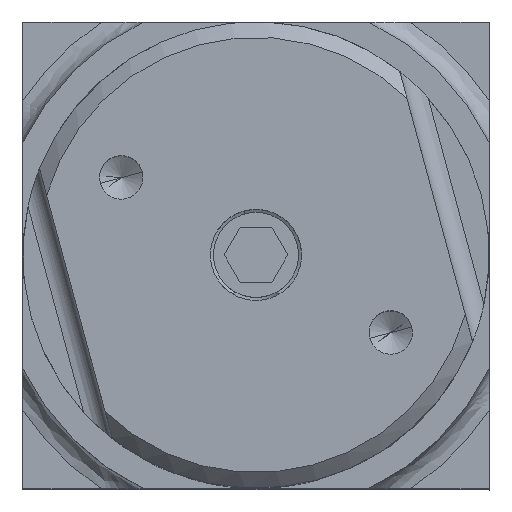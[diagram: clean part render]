
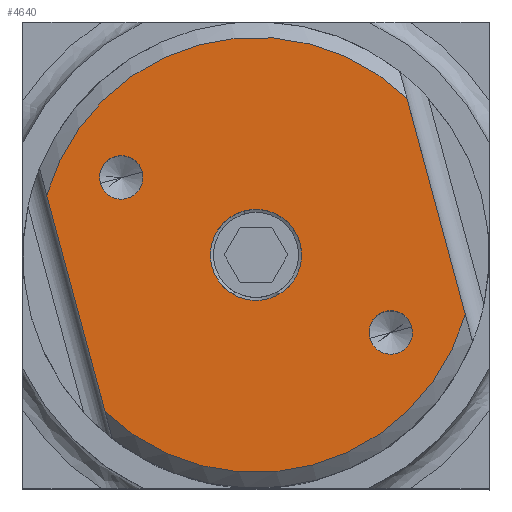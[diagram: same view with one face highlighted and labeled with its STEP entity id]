
A CAD part, top view. The second image highlights one B-rep face of the part: STEP entity #4640.
In plain terms, the highlighted planar face has unit normal (0, 0, 1).
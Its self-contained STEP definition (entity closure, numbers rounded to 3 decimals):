
#494 = CARTESIAN_POINT ( 'NONE',  ( -24.374, 2.932, 183.5 ) ) ;
#1369 = PLANE ( 'NONE',  #24816 ) ;
#2161 = CIRCLE ( 'NONE', #4264, 2.1 ) ;
#2211 = VERTEX_POINT ( 'NONE', #11824 ) ;
#2353 = ORIENTED_EDGE ( 'NONE', *, *, #20970, .F. ) ;
#2733 = CARTESIAN_POINT ( 'NONE',  ( -4.179, -2.824, 183.5 ) ) ;
#3393 = VERTEX_POINT ( 'NONE', #5075 ) ;
#3458 = CARTESIAN_POINT ( 'NONE',  ( 10.384, 12.306, 183.5 ) ) ;
#3537 = CARTESIAN_POINT ( 'NONE',  ( -19.209, 4.108, 183.5 ) ) ;
#3888 = CIRCLE ( 'NONE', #15987, 4.4 ) ;
#4264 = AXIS2_PLACEMENT_3D ( 'NONE', #9071, #24767, #11341 ) ;
#4492 = EDGE_CURVE ( 'NONE', #2211, #20795, #18507, .T. ) ;
#4640 = ADVANCED_FACE ( 'NONE', ( #4818, #16727, #28662, #27954 ), #1369, .F. ) ;
#4818 = FACE_BOUND ( 'NONE', #21282, .T. ) ;
#4976 = DIRECTION ( 'NONE',  ( 0.966, 0.26, 0. ) ) ;
#5075 = CARTESIAN_POINT ( 'NONE',  ( -15.153, 5.201, 183.5 ) ) ;
#5133 = CIRCLE ( 'NONE', #10290, 21. ) ;
#5341 = VERTEX_POINT ( 'NONE', #19574 ) ;
#5560 = DIRECTION ( 'NONE',  ( 0., 0., 1. ) ) ;
#5627 = ORIENTED_EDGE ( 'NONE', *, *, #5790, .F. ) ;
#5748 = CARTESIAN_POINT ( 'NONE',  ( 8.824, -10.303, 183.5 ) ) ;
#5790 = EDGE_CURVE ( 'NONE', #8892, #5341, #3888, .T. ) ;
#6096 = CARTESIAN_POINT ( 'NONE',  ( 13.201, 1.862, 183.5 ) ) ;
#6547 = VECTOR ( 'NONE', #21809, 1000. ) ;
#7029 = EDGE_CURVE ( 'NONE', #16214, #25987, #28991, .T. ) ;
#7250 = AXIS2_PLACEMENT_3D ( 'NONE', #5748, #21461, #8022 ) ;
#8022 = DIRECTION ( 'NONE',  ( 0.966, 0.26, 0. ) ) ;
#8116 = CARTESIAN_POINT ( 'NONE',  ( -4.179, -2.824, 183.5 ) ) ;
#8437 = CARTESIAN_POINT ( 'NONE',  ( -17.181, 4.655, 183.5 ) ) ;
#8892 = VERTEX_POINT ( 'NONE', #27977 ) ;
#9071 = CARTESIAN_POINT ( 'NONE',  ( -17.181, 4.655, 183.5 ) ) ;
#10257 = CIRCLE ( 'NONE', #14172, 4.4 ) ;
#10290 = AXIS2_PLACEMENT_3D ( 'NONE', #8116, #23798, #10384 ) ;
#10381 = CARTESIAN_POINT ( 'NONE',  ( 18.734, -18.657, 183.5 ) ) ;
#10384 = DIRECTION ( 'NONE',  ( -0.966, -0.26, 0. ) ) ;
#10705 = DIRECTION ( 'NONE',  ( 0.966, 0.26, 0. ) ) ;
#11027 = EDGE_LOOP ( 'NONE', ( #18384, #26684 ) ) ;
#11272 = VERTEX_POINT ( 'NONE', #15246 ) ;
#11341 = DIRECTION ( 'NONE',  ( 0.966, 0.26, 0. ) ) ;
#11652 = ORIENTED_EDGE ( 'NONE', *, *, #4492, .T. ) ;
#11820 = CIRCLE ( 'NONE', #17745, 21. ) ;
#11824 = CARTESIAN_POINT ( 'NONE',  ( 16.017, -8.581, 183.5 ) ) ;
#12098 = CARTESIAN_POINT ( 'NONE',  ( -4.179, -2.824, 183.5 ) ) ;
#12430 = ORIENTED_EDGE ( 'NONE', *, *, #16565, .F. ) ;
#12656 = DIRECTION ( 'NONE',  ( -0.966, -0.26, 0. ) ) ;
#13199 = DIRECTION ( 'NONE',  ( 0., 0., 1. ) ) ;
#13278 = EDGE_CURVE ( 'NONE', #3393, #26085, #26608, .T. ) ;
#14172 = AXIS2_PLACEMENT_3D ( 'NONE', #26580, #13199, #28829 ) ;
#14349 = DIRECTION ( 'NONE',  ( -0.966, -0.26, 0. ) ) ;
#15246 = CARTESIAN_POINT ( 'NONE',  ( -18.741, -17.955, 183.5 ) ) ;
#15987 = AXIS2_PLACEMENT_3D ( 'NONE', #2733, #18404, #4976 ) ;
#16214 = VERTEX_POINT ( 'NONE', #20003 ) ;
#16565 = EDGE_CURVE ( 'NONE', #25987, #16214, #22330, .T. ) ;
#16660 = EDGE_CURVE ( 'NONE', #11272, #2211, #5133, .T. ) ;
#16727 = FACE_BOUND ( 'NONE', #19756, .T. ) ;
#17218 = LINE ( 'NONE', #18305, #20370 ) ;
#17510 = AXIS2_PLACEMENT_3D ( 'NONE', #19012, #5560, #21266 ) ;
#17745 = AXIS2_PLACEMENT_3D ( 'NONE', #12098, #27764, #14349 ) ;
#17753 = VERTEX_POINT ( 'NONE', #494 ) ;
#18305 = CARTESIAN_POINT ( 'NONE',  ( -21.558, -7.511, 183.5 ) ) ;
#18384 = ORIENTED_EDGE ( 'NONE', *, *, #13278, .F. ) ;
#18404 = DIRECTION ( 'NONE',  ( 0., 0., 1. ) ) ;
#18507 = LINE ( 'NONE', #6096, #6547 ) ;
#19012 = CARTESIAN_POINT ( 'NONE',  ( 8.824, -10.303, 183.5 ) ) ;
#19422 = ORIENTED_EDGE ( 'NONE', *, *, #27429, .T. ) ;
#19574 = CARTESIAN_POINT ( 'NONE',  ( 0.07, -1.679, 183.5 ) ) ;
#19756 = EDGE_LOOP ( 'NONE', ( #20481, #12430 ) ) ;
#20003 = CARTESIAN_POINT ( 'NONE',  ( 10.851, -9.757, 183.5 ) ) ;
#20370 = VECTOR ( 'NONE', #20546, 1000. ) ;
#20481 = ORIENTED_EDGE ( 'NONE', *, *, #7029, .F. ) ;
#20486 = EDGE_LOOP ( 'NONE', ( #24953, #11652, #19422, #23197 ) ) ;
#20546 = DIRECTION ( 'NONE',  ( 0.26, -0.966, 0. ) ) ;
#20795 = VERTEX_POINT ( 'NONE', #3458 ) ;
#20843 = AXIS2_PLACEMENT_3D ( 'NONE', #8437, #24128, #10705 ) ;
#20970 = EDGE_CURVE ( 'NONE', #5341, #8892, #10257, .T. ) ;
#21174 = CARTESIAN_POINT ( 'NONE',  ( 6.796, -10.85, 183.5 ) ) ;
#21266 = DIRECTION ( 'NONE',  ( 0.966, 0.26, 0. ) ) ;
#21282 = EDGE_LOOP ( 'NONE', ( #2353, #5627 ) ) ;
#21461 = DIRECTION ( 'NONE',  ( 0., 0., 1. ) ) ;
#21809 = DIRECTION ( 'NONE',  ( -0.26, 0.966, 0. ) ) ;
#22330 = CIRCLE ( 'NONE', #7250, 2.1 ) ;
#23197 = ORIENTED_EDGE ( 'NONE', *, *, #28909, .T. ) ;
#23798 = DIRECTION ( 'NONE',  ( 0., 0., 1. ) ) ;
#24128 = DIRECTION ( 'NONE',  ( 0., 0., 1. ) ) ;
#24767 = DIRECTION ( 'NONE',  ( 0., 0., 1. ) ) ;
#24816 = AXIS2_PLACEMENT_3D ( 'NONE', #10381, #26067, #12656 ) ;
#24953 = ORIENTED_EDGE ( 'NONE', *, *, #16660, .T. ) ;
#25987 = VERTEX_POINT ( 'NONE', #21174 ) ;
#26067 = DIRECTION ( 'NONE',  ( 0., 0., -1. ) ) ;
#26085 = VERTEX_POINT ( 'NONE', #3537 ) ;
#26580 = CARTESIAN_POINT ( 'NONE',  ( -4.179, -2.824, 183.5 ) ) ;
#26608 = CIRCLE ( 'NONE', #20843, 2.1 ) ;
#26684 = ORIENTED_EDGE ( 'NONE', *, *, #28884, .F. ) ;
#27429 = EDGE_CURVE ( 'NONE', #20795, #17753, #11820, .T. ) ;
#27764 = DIRECTION ( 'NONE',  ( 0., 0., 1. ) ) ;
#27954 = FACE_OUTER_BOUND ( 'NONE', #20486, .T. ) ;
#27977 = CARTESIAN_POINT ( 'NONE',  ( -8.427, -3.97, 183.5 ) ) ;
#28662 = FACE_BOUND ( 'NONE', #11027, .T. ) ;
#28829 = DIRECTION ( 'NONE',  ( 0.966, 0.26, 0. ) ) ;
#28884 = EDGE_CURVE ( 'NONE', #26085, #3393, #2161, .T. ) ;
#28909 = EDGE_CURVE ( 'NONE', #17753, #11272, #17218, .T. ) ;
#28991 = CIRCLE ( 'NONE', #17510, 2.1 ) ;
